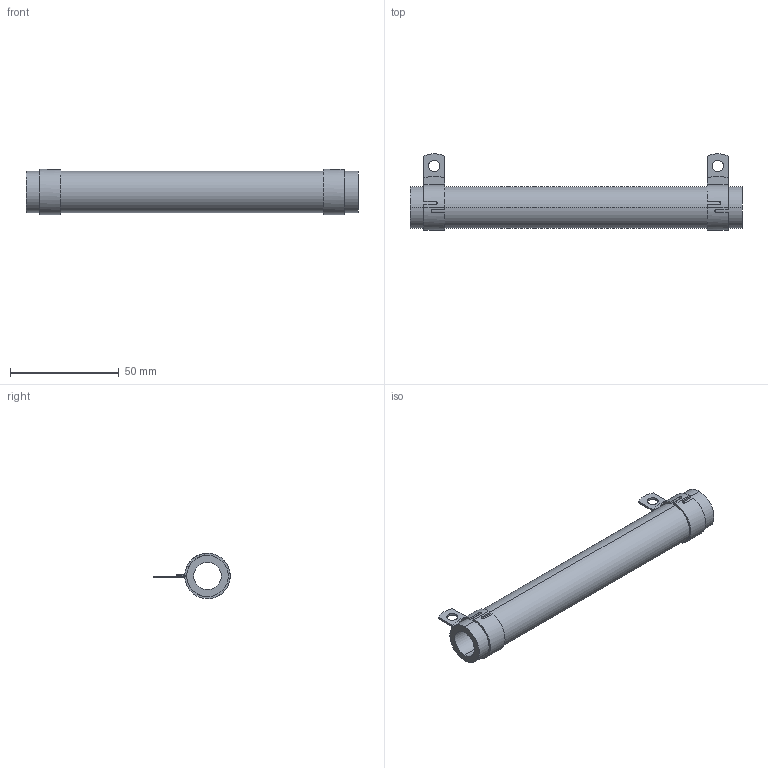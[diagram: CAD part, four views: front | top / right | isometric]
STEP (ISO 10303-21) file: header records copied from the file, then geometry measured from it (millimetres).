
FILE_DESCRIPTION (( 'STEP AP203' ), '1' );
FILE_NAME ('RBEF0160xxxxxKFB00.STEP', '2014-04-04T18:42:16', ( '' ), ( '' ), 'SwSTEP 2.0', 'SolidWorks 2012', '' );
FILE_SCHEMA (( 'CONFIG_CONTROL_DESIGN' ));
Length unit declared in the file: millimetre
Products named in the file (3): RBEF0160xxxxxKFB00; DAL15-160-XXX_DAL15-160-912-CLOSED; DAL013-04_DAL013-118
Assembly tree (3 placements, depth 2):
  RBEF0160xxxxxKFB00
    DAL013-04_DAL013-118
    DAL15-160-XXX_DAL15-160-912-CLOSED  x2
Bounding box: 152.4 x 35.06 x 20.83 mm (x, y, z)
Volume: 25410.3 mm3; surface area: 18776.7 mm2
Topology: 3 solids, 3 shells, 80 faces, 190 edges, 116 vertices
Faces by surface type: plane 42, cylinder 34, bspline 4
Entity records: 1706 total; most frequent: CARTESIAN_POINT 366, DIRECTION 229, ORIENTED_EDGE 202, EDGE_CURVE 101, AXIS2_PLACEMENT_3D 89, VERTEX_POINT 62, VECTOR 51, LINE 51
